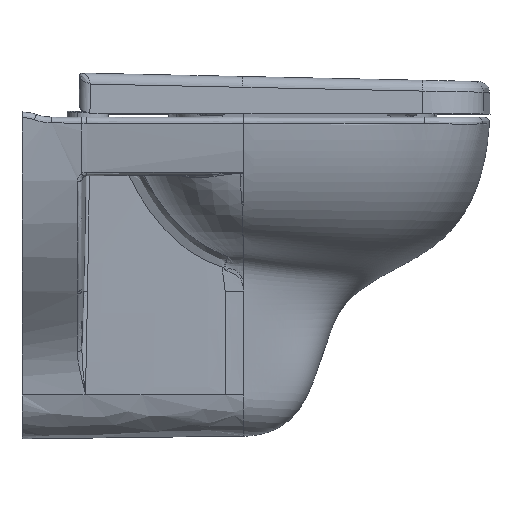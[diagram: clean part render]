
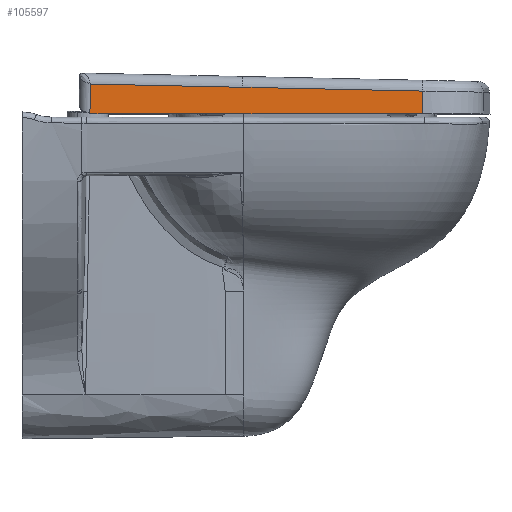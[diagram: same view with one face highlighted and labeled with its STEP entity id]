
A CAD part, top view. The second image highlights one B-rep face of the part: STEP entity #105597.
In plain terms, the highlighted planar face has unit normal (0, 0.021, 1).
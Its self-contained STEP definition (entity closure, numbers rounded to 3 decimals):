
#2370 = EDGE_LOOP ( 'NONE', ( #115456, #143346, #124101, #45227, #48833, #136789, #74431 ) ) ;
#3224 = VERTEX_POINT ( 'NONE', #186511 ) ;
#3429 = LINE ( 'NONE', #152807, #99915 ) ;
#8856 = EDGE_CURVE ( 'NONE', #43047, #3224, #26921, .T. ) ;
#10045 = VECTOR ( 'NONE', #80083, 1000. ) ;
#11043 = EDGE_CURVE ( 'NONE', #3224, #149764, #95308, .T. ) ;
#12380 = VERTEX_POINT ( 'NONE', #40121 ) ;
#18020 = EDGE_CURVE ( 'NONE', #12380, #73682, #3429, .T. ) ;
#22845 = CARTESIAN_POINT ( 'NONE',  ( 146.711, 163.457, 176.827 ) ) ;
#23884 = CARTESIAN_POINT ( 'NONE',  ( -207.246, 163.457, 176.827 ) ) ;
#26921 = LINE ( 'NONE', #84952, #86183 ) ;
#35395 = EDGE_CURVE ( 'NONE', #130726, #128068, #182995, .T. ) ;
#35850 = LINE ( 'NONE', #62495, #140971 ) ;
#38341 = LINE ( 'NONE', #52605, #41864 ) ;
#40121 = CARTESIAN_POINT ( 'NONE',  ( 146.711, 188.231, 176.308 ) ) ;
#41864 = VECTOR ( 'NONE', #140178, 1000. ) ;
#42787 = PLANE ( 'NONE',  #126905 ) ;
#43047 = VERTEX_POINT ( 'NONE', #81505 ) ;
#45227 = ORIENTED_EDGE ( 'NONE', *, *, #11043, .T. ) ;
#45865 = CARTESIAN_POINT ( 'NONE',  ( -207.246, 163.457, 176.827 ) ) ;
#48833 = ORIENTED_EDGE ( 'NONE', *, *, #131657, .T. ) ;
#52605 = CARTESIAN_POINT ( 'NONE',  ( 146.711, 163.457, 176.827 ) ) ;
#57043 = FACE_OUTER_BOUND ( 'NONE', #2370, .T. ) ;
#61461 = DIRECTION ( 'NONE',  ( 0., -1., 0.021 ) ) ;
#62495 = CARTESIAN_POINT ( 'NONE',  ( -50.576, 192.395, 176.221 ) ) ;
#64380 = DIRECTION ( 'NONE',  ( -1., 0.021, 0. ) ) ;
#66884 = CARTESIAN_POINT ( 'NONE',  ( -50.328, 163.457, 176.827 ) ) ;
#73682 = VERTEX_POINT ( 'NONE', #22845 ) ;
#74252 = CARTESIAN_POINT ( 'NONE',  ( -216.1, 164.146, 176.812 ) ) ;
#74431 = ORIENTED_EDGE ( 'NONE', *, *, #104552, .T. ) ;
#80083 = DIRECTION ( 'NONE',  ( -0.021, -1., 0.021 ) ) ;
#81505 = CARTESIAN_POINT ( 'NONE',  ( -50.328, 192.389, 176.221 ) ) ;
#84952 = CARTESIAN_POINT ( 'NONE',  ( -227.43, 196.127, 176.142 ) ) ;
#86183 = VECTOR ( 'NONE', #143005, 1000. ) ;
#86559 = CARTESIAN_POINT ( 'NONE',  ( 146.711, 163.457, 176.827 ) ) ;
#95308 = LINE ( 'NONE', #138143, #10045 ) ;
#99915 = VECTOR ( 'NONE', #61461, 1000. ) ;
#104552 = EDGE_CURVE ( 'NONE', #128068, #73682, #38341, .T. ) ;
#105597 = ADVANCED_FACE ( 'NONE', ( #57043 ), #42787, .T. ) ;
#115456 = ORIENTED_EDGE ( 'NONE', *, *, #18020, .F. ) ;
#116048 = DIRECTION ( 'NONE',  ( 0., 0.021, 1. ) ) ;
#122090 = DIRECTION ( 'NONE',  ( 1., 0., 0. ) ) ;
#124101 = ORIENTED_EDGE ( 'NONE', *, *, #8856, .T. ) ;
#126905 = AXIS2_PLACEMENT_3D ( 'NONE', #86559, #116048, #174109 ) ;
#128068 = VERTEX_POINT ( 'NONE', #166255 ) ;
#130726 = VERTEX_POINT ( 'NONE', #23884 ) ;
#131657 = EDGE_CURVE ( 'NONE', #149764, #130726, #148174, .T. ) ;
#132229 = EDGE_CURVE ( 'NONE', #12380, #43047, #35850, .T. ) ;
#136789 = ORIENTED_EDGE ( 'NONE', *, *, #35395, .T. ) ;
#138143 = CARTESIAN_POINT ( 'NONE',  ( -216.042, 166.926, 176.754 ) ) ;
#140178 = DIRECTION ( 'NONE',  ( 1., 0., 0. ) ) ;
#140971 = VECTOR ( 'NONE', #64380, 1000. ) ;
#143005 = DIRECTION ( 'NONE',  ( -1., 0.021, 0. ) ) ;
#143346 = ORIENTED_EDGE ( 'NONE', *, *, #132229, .T. ) ;
#147706 = CARTESIAN_POINT ( 'NONE',  ( -213.56, 163.686, 176.822 ) ) ;
#148174 = B_SPLINE_CURVE_WITH_KNOTS ( 'NONE', 3,
 ( #176273, #147706, #175332, #45865 ),
 .UNSPECIFIED., .F., .F.,
 ( 4, 4 ),
 ( 0., 1. ),
 .UNSPECIFIED. ) ;
#149764 = VERTEX_POINT ( 'NONE', #74252 ) ;
#152807 = CARTESIAN_POINT ( 'NONE',  ( 146.711, 163.457, 176.827 ) ) ;
#159057 = VECTOR ( 'NONE', #122090, 1000. ) ;
#166255 = CARTESIAN_POINT ( 'NONE',  ( -50.328, 163.457, 176.827 ) ) ;
#174109 = DIRECTION ( 'NONE',  ( 1., 0., 0. ) ) ;
#175332 = CARTESIAN_POINT ( 'NONE',  ( -210.609, 163.457, 176.827 ) ) ;
#176273 = CARTESIAN_POINT ( 'NONE',  ( -216.1, 164.146, 176.812 ) ) ;
#182995 = LINE ( 'NONE', #66884, #159057 ) ;
#186511 = CARTESIAN_POINT ( 'NONE',  ( -215.436, 195.874, 176.148 ) ) ;
